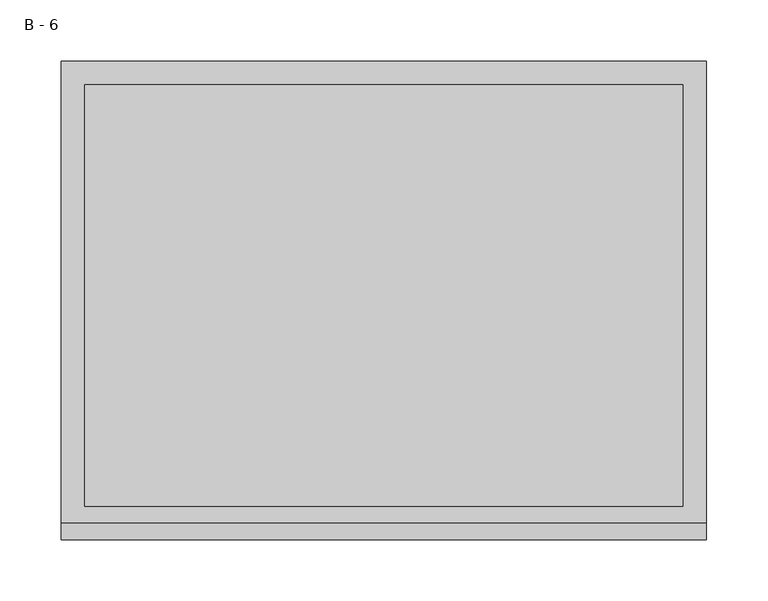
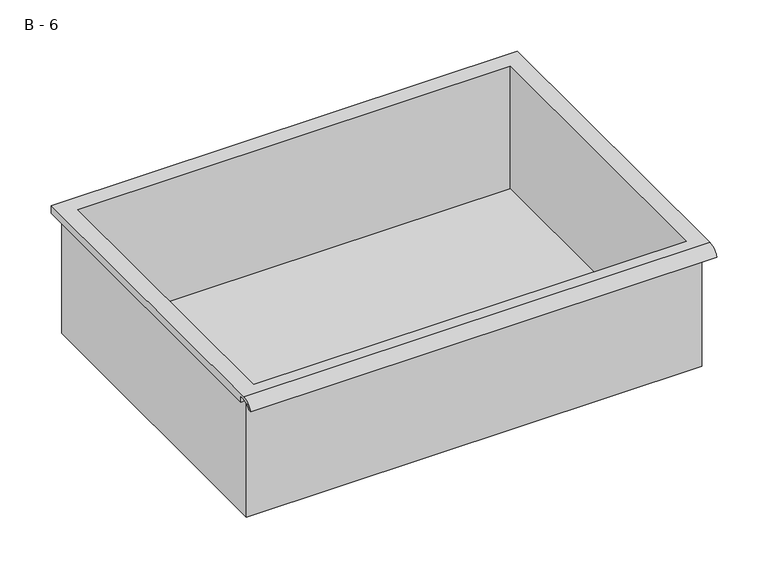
"""IFC4 building model written with IfcOpenShell, lengths in millimetres: furniture geometry, HermanMiller_CoStruc_CO207_Drawer : B - 6."""

from ifc_helpers import new_model, si_unit, frame, origin, place, context, project, spatial, polyline, circle_curve, source, transform, mapped, element, save
from ifc_brep_helpers import plane_surface, cylinder_surface, revolved_surface, advanced_brep


def b_6_b5d62f69(model_context):
    return source(origin(), model_context, "Body", "AdvancedBrep", [
        advanced_brep(
        [(-257.1076517, -176.2125, 317.4111), (257.2423483, -176.2125, 317.4111), (257.2423483, -176.2125, 457.1111), (263.5923483, -176.2125, 457.1111), (263.5923483, -176.2125, 463.4182341), (-263.4576517, -176.2125, 463.4182341), (-263.4576517, -176.2125, 457.1111), (-257.1076517, -176.2125, 457.1111), (257.2423483, 185.7375, 317.4111), (-257.1076517, 185.7375, 317.4111), (-257.1076517, 185.7375, 457.1111), (257.2423483, 185.7375, 457.1111), (263.5923483, -181.6070544, 466.6361), (263.5923483, 195.2625, 466.6361), (-263.4576517, 195.2625, 466.6361), (-263.4576517, -181.6070544, 466.6361), (244.5423483, -168.275, 466.6361), (-244.4076517, -168.275, 466.6361), (-244.4076517, 176.2125, 466.6361), (244.5423483, 176.2125, 466.6361), (263.5923483, -195.2625, 457.1111), (263.5923483, -191.8280601, 457.1111), (263.5923483, -180.4714815, 463.4182341), (263.5923483, 195.2625, 457.1111), (-263.4576517, 195.2625, 457.1111), (-263.4576517, -180.4714815, 463.4182341), (-263.4576517, -191.8280601, 457.1111), (-263.4576517, -195.2625, 457.1111), (-244.4076517, -168.275, 320.4372719), (244.5423483, -168.275, 320.4372719), (244.5423483, 176.2125, 320.4372719), (-244.4076517, 176.2125, 320.4372719)],
        [
            (0, 1),
            (1, 2),
            (2, 3),
            (3, 4),
            (4, 5),
            (5, 6),
            (6, 7),
            (7, 0),
            (8, 9),
            (9, 10),
            (10, 11),
            (11, 8),
            (0, 9),
            (8, 1),
            (11, 2),
            (12, 13),
            (13, 14),
            (14, 15),
            (15, 12),
            (16, 17),
            (17, 18),
            (18, 19),
            (19, 16),
            (7, 10),
            (12, 20, circle_curve(frame((263.5923483, -181.6070544, 452.0850859), z_axis=(1.0, 0.0, 0.0), x_axis=(0.0, 1.0, 0.0)), 14.5510141)),
            (20, 21),
            (21, 22, circle_curve(frame((263.5923483, -181.6070544, 452.0850859), z_axis=(-1.0, 0.0, 0.0), x_axis=(0.0, 1.0, 0.0)), 11.3898979)),
            (22, 4),
            (3, 23),
            (23, 13),
            (14, 24),
            (24, 6),
            (5, 25),
            (25, 26, circle_curve(frame((-263.4576517, -181.6070544, 452.0850859), z_axis=(1.0, 0.0, 0.0), x_axis=(0.0, 1.0, 0.0)), 11.3898979)),
            (26, 27),
            (27, 15, circle_curve(frame((-263.4576517, -181.6070544, 452.0850859), z_axis=(-1.0, 0.0, 0.0), x_axis=(0.0, 1.0, 0.0)), 14.5510141)),
            (27, 20),
            (26, 21),
            (25, 22),
            (24, 23),
            (28, 29),
            (29, 30),
            (30, 31),
            (31, 28),
            (28, 17),
            (16, 29),
            (19, 30),
            (18, 31),
        ],
        [
            plane_surface(frame((257.2423483, -176.2125, 317.4111), z_axis=(0.0, -1.0, 0.0), x_axis=(1.0, 0.0, 0.0))),
            plane_surface(frame((257.2423483, 185.7375, 317.4111), z_axis=(0.0, 1.0, 0.0), x_axis=(-1.0, 0.0, 0.0))),
            plane_surface(frame((-257.1076517, -176.2125, 317.4111), z_axis=(0.0, 0.0, -1.0), x_axis=(0.0, 1.0, 0.0))),
            plane_surface(frame((257.2423483, -176.2125, 317.4111), z_axis=(1.0, 0.0, 0.0), x_axis=(0.0, 1.0, 0.0))),
            plane_surface(frame((257.2423483, -176.2125, 466.6361), z_axis=(0.0, 0.0, 1.0), x_axis=(0.0, 1.0, 0.0))),
            plane_surface(frame((-257.1076517, -176.2125, 466.6361), z_axis=(-1.0, 0.0, 0.0), x_axis=(0.0, 1.0, 0.0))),
            plane_surface(frame((263.5923483, 195.2625, 466.6361), z_axis=(1.0, 0.0, 0.0), x_axis=(0.0, -1.0, 0.0))),
            plane_surface(frame((-263.4576517, 195.2625, 466.6361), z_axis=(-1.0, 0.0, 0.0), x_axis=(0.0, 1.0, 0.0))),
            cylinder_surface(frame((-263.4576517, -181.6070544, 452.0850859), z_axis=(1.0, 0.0, 0.0), x_axis=(0.0, 1.0, 0.0)), 14.5510141),
            plane_surface(frame((263.5923483, -195.2625, 457.1111), z_axis=(0.0, -7.291233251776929e-12, -1.0), x_axis=(-1.0, 0.0, 0.0))),
            revolved_surface(polyline([(-263.4576517, -170.21715650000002, 452.0850859), (263.59234829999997, -170.21715650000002, 452.0850859)]), (-263.4576517, -181.6070544, 452.0850859), (-1.0, 0.0, 0.0)),
            plane_surface(frame((263.5923483, -180.4714815, 463.4182341), z_axis=(0.0, -1.8020319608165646e-11, -1.0), x_axis=(-1.0, 0.0, 0.0))),
            plane_surface(frame((263.5923483, -176.2125, 457.1111), z_axis=(0.0, 0.0, -1.0), x_axis=(-1.0, 0.0, 0.0))),
            plane_surface(frame((263.5923483, 195.2625, 457.1111), z_axis=(0.0, 1.0, 0.0), x_axis=(-1.0, 0.0, 0.0))),
            plane_surface(frame((244.5423483, -168.275, 320.4372719), z_axis=(0.0, 0.0, 1.0), x_axis=(-1.0, 0.0, 0.0))),
            plane_surface(frame((-244.4076517, -168.275, 466.6361), z_axis=(0.0, 1.0, 0.0), x_axis=(0.0, 0.0, -1.0))),
            plane_surface(frame((244.5423483, -168.275, 466.6361), z_axis=(-1.0, 0.0, 0.0), x_axis=(0.0, 0.0, -1.0))),
            plane_surface(frame((244.5423483, 176.2125, 466.6361), z_axis=(0.0, -1.0, 0.0), x_axis=(0.0, 0.0, -1.0))),
            plane_surface(frame((-244.4076517, 176.2125, 466.6361), z_axis=(1.0, 0.0, 0.0), x_axis=(0.0, 0.0, -1.0))),
        ],
        [
            (0, [[1, 2, 3, 4, 5, 6, 7, 8]]),
            (1, [[9, 10, 11, 12]]),
            (2, [[-1, 13, -9, 14]]),
            (3, [[-14, -12, 15, -2]]),
            (4, [[16, 17, 18, 19], [20, 21, 22, 23]]),
            (5, [[-13, -8, 24, -10]]),
            (6, [[-16, 25, 26, 27, 28, -4, 29, 30]]),
            (7, [[31, 32, -6, 33, 34, 35, 36, -18]]),
            (8, [[-25, -19, -36, 37]]),
            (9, [[-26, -37, -35, 38]]),
            (10, [[-27, -38, -34, 39]]),
            (11, [[-28, -39, -33, -5]]),
            (12, [[-29, -3, -15, -11, -24, -7, -32, 40]]),
            (13, [[-30, -40, -31, -17]]),
            (14, [[41, 42, 43, 44]]),
            (15, [[-41, 45, -20, 46]]),
            (16, [[-42, -46, -23, 47]]),
            (17, [[-43, -47, -22, 48]]),
            (18, [[-44, -48, -21, -45]]),
        ],
    ),
    ])


if __name__ == "__main__":
    model = new_model("IFC4")
    model_context = context("Model", 3, world=origin())
    ifc_project = project(units=[si_unit("LENGTHUNIT", "METRE", prefix="MILLI")], contexts=[model_context])
    site = spatial("IfcSite", under=ifc_project)
    building = spatial("IfcBuilding", under=site)
    placement = place(None, origin())
    b_6_shape = b_6_b5d62f69(model_context)
    element("IfcFurniture", 1, ObjectType="HermanMiller_CoStruc_CO207_Drawer : B - 6", at=placement, inside=building, context=model_context, shape_type="MappedRepresentation", body=[
        mapped(b_6_shape, transform((0.0, 0.0, 0.0), x_axis=(1.0, 0.0, 0.0), y_axis=(0.0, 1.0, 0.0), z_axis=(0.0, 0.0, 1.0))),
    ])
    save(model, "model.ifc")
